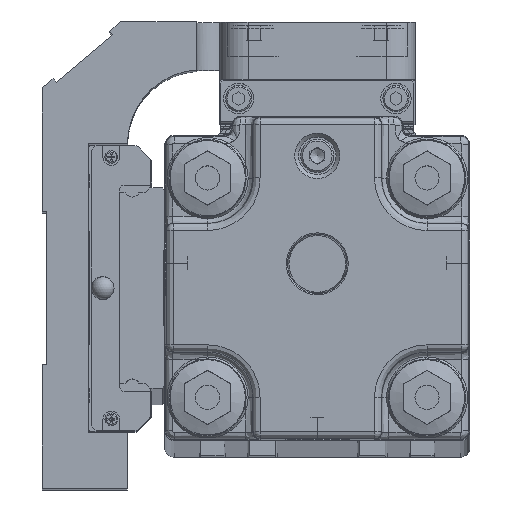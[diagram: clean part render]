
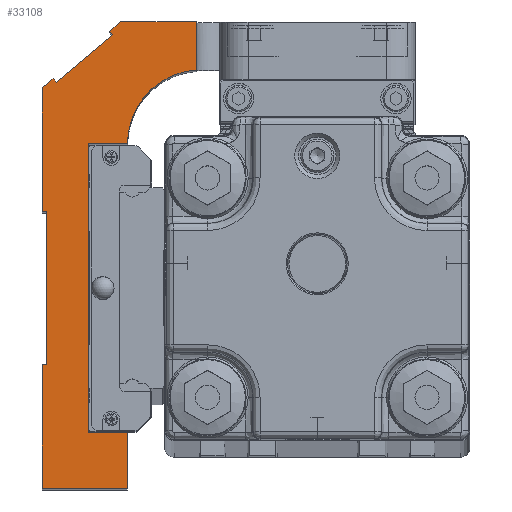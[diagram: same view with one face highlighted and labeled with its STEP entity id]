
A CAD part, top view. The second image highlights one B-rep face of the part: STEP entity #33108.
In plain terms, the highlighted planar face has unit normal (0, 0, 1) as drawn and (0, 0, -1) by its records, which use the part's own axes.
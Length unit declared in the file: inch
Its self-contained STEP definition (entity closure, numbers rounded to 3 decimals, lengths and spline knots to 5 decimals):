
#596 = ORIENTED_EDGE ( 'NONE', *, *, #39478, .F. ) ;
#600 = EDGE_CURVE ( 'NONE', #21672, #32052, #27147, .T. ) ;
#631 = DIRECTION ( 'NONE',  ( -1., 0., 0. ) ) ;
#1041 = CARTESIAN_POINT ( 'NONE',  ( 0., -0.62992, -3.93701 ) ) ;
#1201 = DIRECTION ( 'NONE',  ( -1., 0., 0. ) ) ;
#1525 = VERTEX_POINT ( 'NONE', #22935 ) ;
#3495 = CARTESIAN_POINT ( 'NONE',  ( 0., -1.65354, -3.93701 ) ) ;
#3532 = VECTOR ( 'NONE', #44219, 39.37008 ) ;
#3692 = LINE ( 'NONE', #38224, #26057 ) ;
#3947 = VECTOR ( 'NONE', #26114, 39.37008 ) ;
#6455 = EDGE_CURVE ( 'NONE', #36356, #10123, #22837, .T. ) ;
#7815 = DIRECTION ( 'NONE',  ( 0., -1., 0. ) ) ;
#8597 = DIRECTION ( 'NONE',  ( 1., 0., 0. ) ) ;
#8689 = LINE ( 'NONE', #44346, #30727 ) ;
#8815 = EDGE_CURVE ( 'NONE', #21206, #27003, #30181, .T. ) ;
#8929 = DIRECTION ( 'NONE',  ( 0., 0., -1. ) ) ;
#9344 = LINE ( 'NONE', #45014, #45993 ) ;
#10123 = VERTEX_POINT ( 'NONE', #12503 ) ;
#10901 = CARTESIAN_POINT ( 'NONE',  ( -0.11578, 1.6993, -3.93701 ) ) ;
#11371 = EDGE_LOOP ( 'NONE', ( #22667, #20106, #50612, #25581, #13156, #48395, #37469, #27056, #56740, #28406, #596, #50043, #33367, #50311, #45168, #17577, #25115, #31189 ) ) ;
#11605 = FACE_OUTER_BOUND ( 'NONE', #11371, .T. ) ;
#11671 = CARTESIAN_POINT ( 'NONE',  ( -0.03937, 0.62992, -3.93701 ) ) ;
#11833 = CARTESIAN_POINT ( 'NONE',  ( -0.70472, -1.19094, -3.93701 ) ) ;
#12503 = CARTESIAN_POINT ( 'NONE',  ( -0.70472, -1.65354, -3.93701 ) ) ;
#13156 = ORIENTED_EDGE ( 'NONE', *, *, #47726, .F. ) ;
#13807 = CARTESIAN_POINT ( 'NONE',  ( -0.64749, 2.19685, -3.93701 ) ) ;
#13885 = LINE ( 'NONE', #54777, #25586 ) ;
#14164 = DIRECTION ( 'NONE',  ( -0.643, -0.766, 0. ) ) ;
#15000 = DIRECTION ( 'NONE',  ( 1., 0., 0. ) ) ;
#15302 = CARTESIAN_POINT ( 'NONE',  ( -0.09048, 1.72946, -3.93701 ) ) ;
#16463 = VERTEX_POINT ( 'NONE', #51977 ) ;
#16821 = VERTEX_POINT ( 'NONE', #46979 ) ;
#17577 = ORIENTED_EDGE ( 'NONE', *, *, #22984, .F. ) ;
#17669 = VECTOR ( 'NONE', #8597, 39.37008 ) ;
#18273 = EDGE_CURVE ( 'NONE', #16463, #30706, #32717, .T. ) ;
#18723 = CIRCLE ( 'NONE', #19623, 0.6122 ) ;
#18889 = CARTESIAN_POINT ( 'NONE',  ( -0.38211, -1.19094, -3.93701 ) ) ;
#19088 = CARTESIAN_POINT ( 'NONE',  ( -0.64749, 2.19685, -3.93701 ) ) ;
#19357 = DIRECTION ( 'NONE',  ( -0.766, 0.643, 0. ) ) ;
#19623 = AXIS2_PLACEMENT_3D ( 'NONE', #21971, #8929, #44300 ) ;
#20106 = ORIENTED_EDGE ( 'NONE', *, *, #52350, .T. ) ;
#20933 = DIRECTION ( 'NONE',  ( 0., 1., 0. ) ) ;
#21206 = VERTEX_POINT ( 'NONE', #21207 ) ;
#21207 = CARTESIAN_POINT ( 'NONE',  ( 0., -1.65354, -3.93701 ) ) ;
#21659 = EDGE_CURVE ( 'NONE', #50335, #46011, #28696, .T. ) ;
#21672 = VERTEX_POINT ( 'NONE', #51347 ) ;
#21971 = CARTESIAN_POINT ( 'NONE',  ( -1.31693, 1.19094, -3.93701 ) ) ;
#22667 = ORIENTED_EDGE ( 'NONE', *, *, #52567, .F. ) ;
#22837 = LINE ( 'NONE', #36168, #30104 ) ;
#22935 = CARTESIAN_POINT ( 'NONE',  ( -1.27454, 1.80168, -3.93701 ) ) ;
#22984 = EDGE_CURVE ( 'NONE', #46011, #36356, #9344, .T. ) ;
#23630 = VECTOR ( 'NONE', #7815, 39.37008 ) ;
#24027 = AXIS2_PLACEMENT_3D ( 'NONE', #46991, #42626, #55414 ) ;
#24373 = CARTESIAN_POINT ( 'NONE',  ( -0.58232, 2.09077, -3.93701 ) ) ;
#24603 = DIRECTION ( 'NONE',  ( 0., 1., 0. ) ) ;
#24851 = LINE ( 'NONE', #51568, #53329 ) ;
#24935 = PLANE ( 'NONE',  #24027 ) ;
#25115 = ORIENTED_EDGE ( 'NONE', *, *, #21659, .F. ) ;
#25581 = ORIENTED_EDGE ( 'NONE', *, *, #18273, .F. ) ;
#25586 = VECTOR ( 'NONE', #45498, 39.37008 ) ;
#26020 = LINE ( 'NONE', #57071, #53541 ) ;
#26046 = LINE ( 'NONE', #40249, #31714 ) ;
#26057 = VECTOR ( 'NONE', #24603, 39.37008 ) ;
#26114 = DIRECTION ( 'NONE',  ( 1., 0., 0. ) ) ;
#26805 = EDGE_CURVE ( 'NONE', #10123, #21206, #24851, .T. ) ;
#27003 = VERTEX_POINT ( 'NONE', #1041 ) ;
#27056 = ORIENTED_EDGE ( 'NONE', *, *, #54288, .F. ) ;
#27147 = LINE ( 'NONE', #48350, #17669 ) ;
#27518 = DIRECTION ( 'NONE',  ( -0.766, 0.643, 0. ) ) ;
#27686 = VERTEX_POINT ( 'NONE', #52847 ) ;
#28406 = ORIENTED_EDGE ( 'NONE', *, *, #600, .F. ) ;
#28696 = LINE ( 'NONE', #37406, #23630 ) ;
#29495 = DIRECTION ( 'NONE',  ( -0.766, 0.643, 0. ) ) ;
#29589 = LINE ( 'NONE', #47294, #3947 ) ;
#29645 = LINE ( 'NONE', #11671, #34716 ) ;
#30104 = VECTOR ( 'NONE', #37007, 39.37008 ) ;
#30134 = VERTEX_POINT ( 'NONE', #43183 ) ;
#30181 = LINE ( 'NONE', #3495, #46337 ) ;
#30652 = CARTESIAN_POINT ( 'NONE',  ( 0., 0.62992, -3.93701 ) ) ;
#30706 = VERTEX_POINT ( 'NONE', #13807 ) ;
#30727 = VECTOR ( 'NONE', #14164, 39.37008 ) ;
#31189 = ORIENTED_EDGE ( 'NONE', *, *, #36005, .F. ) ;
#31714 = VECTOR ( 'NONE', #35894, 39.37008 ) ;
#31967 = EDGE_CURVE ( 'NONE', #42464, #41237, #26020, .T. ) ;
#32052 = VERTEX_POINT ( 'NONE', #30652 ) ;
#32389 = EDGE_CURVE ( 'NONE', #32052, #27686, #39291, .T. ) ;
#32717 = LINE ( 'NONE', #19088, #36466 ) ;
#33108 = ADVANCED_FACE ( 'NONE', ( #11605 ), #24935, .F. ) ;
#33367 = ORIENTED_EDGE ( 'NONE', *, *, #8815, .F. ) ;
#33370 = CARTESIAN_POINT ( 'NONE',  ( -3.07913, 2.19685, -3.93701 ) ) ;
#33408 = VECTOR ( 'NONE', #1201, 39.37008 ) ;
#34072 = VERTEX_POINT ( 'NONE', #40714 ) ;
#34716 = VECTOR ( 'NONE', #20933, 39.37008 ) ;
#35894 = DIRECTION ( 'NONE',  ( 0.643, 0.766, 0. ) ) ;
#36005 = EDGE_CURVE ( 'NONE', #34072, #50335, #29589, .T. ) ;
#36077 = CARTESIAN_POINT ( 'NONE',  ( 0., -1.65354, -3.93701 ) ) ;
#36168 = CARTESIAN_POINT ( 'NONE',  ( -0.70472, -1.19094, -3.93701 ) ) ;
#36356 = VERTEX_POINT ( 'NONE', #11833 ) ;
#36466 = VECTOR ( 'NONE', #27518, 39.37008 ) ;
#37007 = DIRECTION ( 'NONE',  ( 0., -1., 0. ) ) ;
#37406 = CARTESIAN_POINT ( 'NONE',  ( -0.38211, -1.19094, -3.93701 ) ) ;
#37469 = ORIENTED_EDGE ( 'NONE', *, *, #54159, .F. ) ;
#38224 = CARTESIAN_POINT ( 'NONE',  ( -1.27454, 1.19094, -3.93701 ) ) ;
#38597 = DIRECTION ( 'NONE',  ( 0., 1., 0. ) ) ;
#39291 = LINE ( 'NONE', #36077, #3532 ) ;
#39478 = EDGE_CURVE ( 'NONE', #30134, #21672, #29645, .T. ) ;
#40192 = EDGE_CURVE ( 'NONE', #30134, #27003, #13885, .T. ) ;
#40249 = CARTESIAN_POINT ( 'NONE',  ( -0.55701, 2.12093, -3.93701 ) ) ;
#40714 = CARTESIAN_POINT ( 'NONE',  ( -0.70472, 1.19094, -3.93701 ) ) ;
#41237 = VERTEX_POINT ( 'NONE', #24373 ) ;
#41537 = VERTEX_POINT ( 'NONE', #50148 ) ;
#41787 = LINE ( 'NONE', #33370, #33408 ) ;
#42464 = VERTEX_POINT ( 'NONE', #10901 ) ;
#42626 = DIRECTION ( 'NONE',  ( 0., 0., 1. ) ) ;
#43183 = CARTESIAN_POINT ( 'NONE',  ( -0.03937, -0.62992, -3.93701 ) ) ;
#44219 = DIRECTION ( 'NONE',  ( 0., 1., 0. ) ) ;
#44300 = DIRECTION ( 'NONE',  ( 1., 0., 0. ) ) ;
#44346 = CARTESIAN_POINT ( 'NONE',  ( -0.09048, 1.72946, -3.93701 ) ) ;
#45014 = CARTESIAN_POINT ( 'NONE',  ( -0.38211, -1.19094, -3.93701 ) ) ;
#45168 = ORIENTED_EDGE ( 'NONE', *, *, #6455, .F. ) ;
#45498 = DIRECTION ( 'NONE',  ( 1., 0., 0. ) ) ;
#45982 = EDGE_CURVE ( 'NONE', #30706, #16821, #41787, .T. ) ;
#45993 = VECTOR ( 'NONE', #631, 39.37008 ) ;
#46011 = VERTEX_POINT ( 'NONE', #18889 ) ;
#46337 = VECTOR ( 'NONE', #38597, 39.37008 ) ;
#46979 = CARTESIAN_POINT ( 'NONE',  ( -1.27454, 2.19685, -3.93701 ) ) ;
#46991 = CARTESIAN_POINT ( 'NONE',  ( -1.31693, 1.19094, -3.93701 ) ) ;
#47294 = CARTESIAN_POINT ( 'NONE',  ( -0.70472, 1.19094, -3.93701 ) ) ;
#47726 = EDGE_CURVE ( 'NONE', #41237, #16463, #26046, .T. ) ;
#48350 = CARTESIAN_POINT ( 'NONE',  ( -0.03937, 0.62992, -3.93701 ) ) ;
#48395 = ORIENTED_EDGE ( 'NONE', *, *, #31967, .F. ) ;
#50043 = ORIENTED_EDGE ( 'NONE', *, *, #40192, .T. ) ;
#50148 = CARTESIAN_POINT ( 'NONE',  ( -0.09048, 1.72946, -3.93701 ) ) ;
#50311 = ORIENTED_EDGE ( 'NONE', *, *, #26805, .F. ) ;
#50335 = VERTEX_POINT ( 'NONE', #55209 ) ;
#50612 = ORIENTED_EDGE ( 'NONE', *, *, #45982, .F. ) ;
#51347 = CARTESIAN_POINT ( 'NONE',  ( -0.03937, 0.62992, -3.93701 ) ) ;
#51568 = CARTESIAN_POINT ( 'NONE',  ( 0., -1.65354, -3.93701 ) ) ;
#51977 = CARTESIAN_POINT ( 'NONE',  ( -0.55701, 2.12093, -3.93701 ) ) ;
#52350 = EDGE_CURVE ( 'NONE', #1525, #16821, #3692, .T. ) ;
#52567 = EDGE_CURVE ( 'NONE', #1525, #34072, #18723, .T. ) ;
#52847 = CARTESIAN_POINT ( 'NONE',  ( 0., 1.65354, -3.93701 ) ) ;
#53329 = VECTOR ( 'NONE', #15000, 39.37008 ) ;
#53541 = VECTOR ( 'NONE', #29495, 39.37008 ) ;
#54159 = EDGE_CURVE ( 'NONE', #41537, #42464, #8689, .T. ) ;
#54288 = EDGE_CURVE ( 'NONE', #27686, #41537, #55339, .T. ) ;
#54777 = CARTESIAN_POINT ( 'NONE',  ( -0.03937, -0.62992, -3.93701 ) ) ;
#55209 = CARTESIAN_POINT ( 'NONE',  ( -0.38211, 1.19094, -3.93701 ) ) ;
#55339 = LINE ( 'NONE', #15302, #56668 ) ;
#55414 = DIRECTION ( 'NONE',  ( 1., 0., 0. ) ) ;
#56668 = VECTOR ( 'NONE', #19357, 39.37008 ) ;
#56740 = ORIENTED_EDGE ( 'NONE', *, *, #32389, .F. ) ;
#57071 = CARTESIAN_POINT ( 'NONE',  ( -0.58232, 2.09077, -3.93701 ) ) ;
